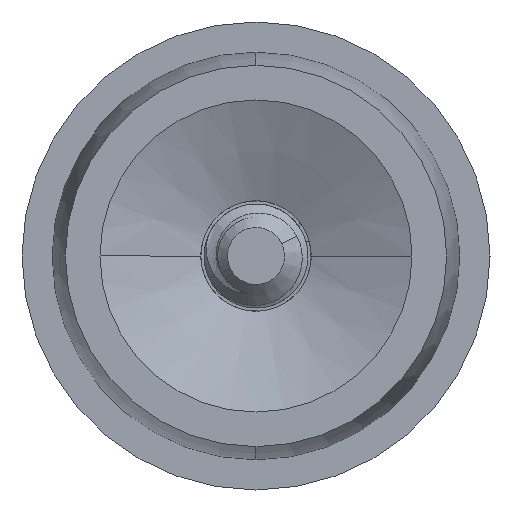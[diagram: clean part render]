
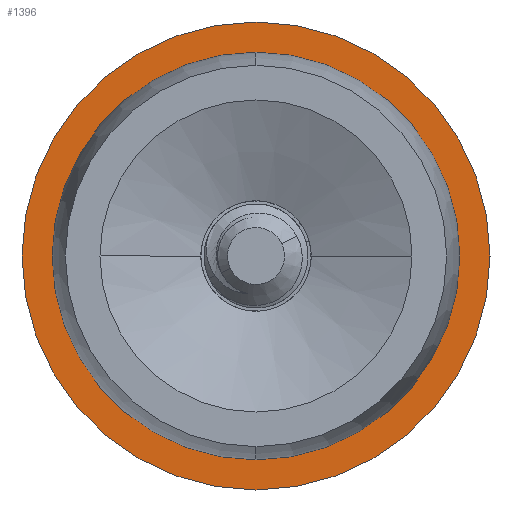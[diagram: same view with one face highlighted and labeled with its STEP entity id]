
A CAD part, left-side view. The second image highlights one B-rep face of the part: STEP entity #1396.
In plain terms, the highlighted planar face has unit normal (-1, 0, 0).
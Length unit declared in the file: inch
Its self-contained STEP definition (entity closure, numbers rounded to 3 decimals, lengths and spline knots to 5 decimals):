
#17 = VERTEX_POINT ( 'NONE', #13456 ) ;
#303 = DIRECTION ( 'NONE',  ( 0., 0., 1. ) ) ;
#597 = CARTESIAN_POINT ( 'NONE',  ( -0.25, 0., -0.49 ) ) ;
#855 = CARTESIAN_POINT ( 'NONE',  ( -0.25, 0., 0. ) ) ;
#867 = DIRECTION ( 'NONE',  ( 0., 0., 1. ) ) ;
#1061 = CARTESIAN_POINT ( 'NONE',  ( -0.25, 0., 0.49 ) ) ;
#1396 = ADVANCED_FACE ( 'NONE', ( #11887, #6606 ), #12293, .T. ) ;
#1910 = DIRECTION ( 'NONE',  ( 0., 0., 1. ) ) ;
#2122 = AXIS2_PLACEMENT_3D ( 'NONE', #12424, #6066, #13491 ) ;
#2682 = CIRCLE ( 'NONE', #9911, 0.49 ) ;
#2870 = ORIENTED_EDGE ( 'NONE', *, *, #12701, .F. ) ;
#3348 = CIRCLE ( 'NONE', #6623, 0.5625 ) ;
#3432 = EDGE_CURVE ( 'NONE', #17, #7756, #13384, .T. ) ;
#3845 = DIRECTION ( 'NONE',  ( -1., 0., 0. ) ) ;
#4406 = ORIENTED_EDGE ( 'NONE', *, *, #10073, .F. ) ;
#4745 = AXIS2_PLACEMENT_3D ( 'NONE', #10214, #3845, #11278 ) ;
#5688 = AXIS2_PLACEMENT_3D ( 'NONE', #13554, #7221, #867 ) ;
#5800 = ORIENTED_EDGE ( 'NONE', *, *, #3432, .T. ) ;
#6066 = DIRECTION ( 'NONE',  ( -1., 0., 0. ) ) ;
#6606 = FACE_OUTER_BOUND ( 'NONE', #8420, .T. ) ;
#6623 = AXIS2_PLACEMENT_3D ( 'NONE', #855, #8272, #1910 ) ;
#6652 = DIRECTION ( 'NONE',  ( -1., 0., 0. ) ) ;
#6967 = VERTEX_POINT ( 'NONE', #597 ) ;
#7221 = DIRECTION ( 'NONE',  ( -1., 0., 0. ) ) ;
#7313 = EDGE_CURVE ( 'NONE', #7756, #17, #3348, .T. ) ;
#7612 = ORIENTED_EDGE ( 'NONE', *, *, #7313, .T. ) ;
#7756 = VERTEX_POINT ( 'NONE', #8594 ) ;
#8272 = DIRECTION ( 'NONE',  ( -1., 0., 0. ) ) ;
#8420 = EDGE_LOOP ( 'NONE', ( #7612, #5800 ) ) ;
#8478 = VERTEX_POINT ( 'NONE', #1061 ) ;
#8594 = CARTESIAN_POINT ( 'NONE',  ( -0.25, 0., 0.5625 ) ) ;
#9222 = CIRCLE ( 'NONE', #5688, 0.49 ) ;
#9911 = AXIS2_PLACEMENT_3D ( 'NONE', #12984, #6652, #303 ) ;
#9920 = EDGE_LOOP ( 'NONE', ( #4406, #2870 ) ) ;
#10073 = EDGE_CURVE ( 'NONE', #8478, #6967, #2682, .T. ) ;
#10214 = CARTESIAN_POINT ( 'NONE',  ( -0.25, 0., -0.49 ) ) ;
#11278 = DIRECTION ( 'NONE',  ( 0., 0., 1. ) ) ;
#11887 = FACE_BOUND ( 'NONE', #9920, .T. ) ;
#12293 = PLANE ( 'NONE',  #4745 ) ;
#12424 = CARTESIAN_POINT ( 'NONE',  ( -0.25, 0., 0. ) ) ;
#12701 = EDGE_CURVE ( 'NONE', #6967, #8478, #9222, .T. ) ;
#12984 = CARTESIAN_POINT ( 'NONE',  ( -0.25, 0., 0. ) ) ;
#13384 = CIRCLE ( 'NONE', #2122, 0.5625 ) ;
#13456 = CARTESIAN_POINT ( 'NONE',  ( -0.25, 0., -0.5625 ) ) ;
#13491 = DIRECTION ( 'NONE',  ( 0., 0., 1. ) ) ;
#13554 = CARTESIAN_POINT ( 'NONE',  ( -0.25, 0., 0. ) ) ;
